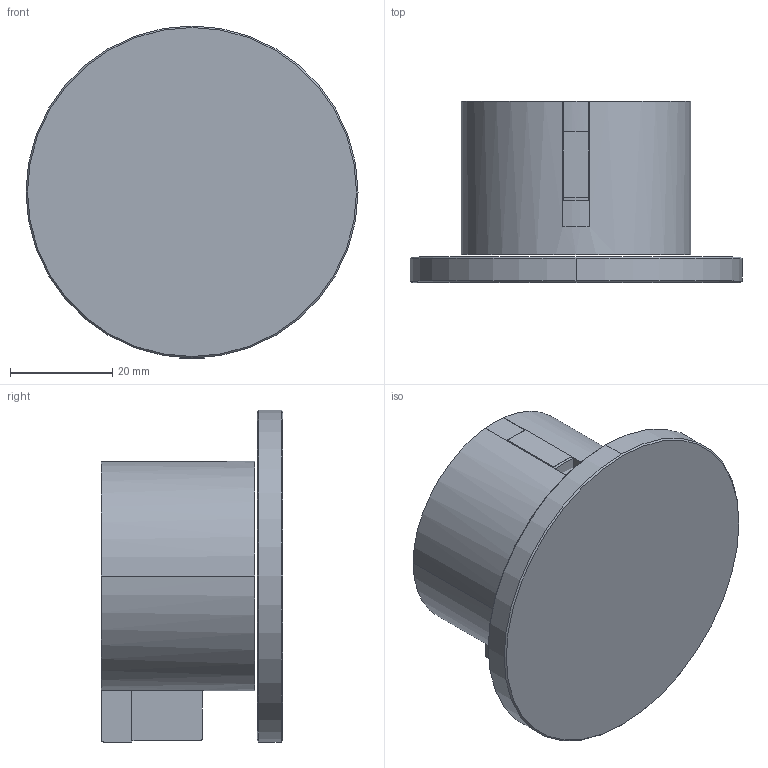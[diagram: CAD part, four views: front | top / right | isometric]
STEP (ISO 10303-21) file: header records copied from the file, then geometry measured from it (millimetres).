
FILE_DESCRIPTION((''),'2;1');
FILE_NAME('0241006B_ASM','2019-02-12T',('filar'),(''),'CREO PARAMETRIC BY PTC INC, 2014440','CREO PARAMETRIC BY PTC INC, 2014440','');
FILE_SCHEMA(('CONFIG_CONTROL_DESIGN'));
Length unit declared in the file: millimetre
Products named in the file (5): P024067; P024064; P024065; P024011; 0241006B_ASM
Assembly tree (4 placements, depth 2):
  0241006B_ASM
    P024067
    P024064
    P024065
    P024011
Bounding box: 65 x 35.5 x 65 mm (x, y, z)
Volume: 69515.9 mm3; surface area: 18911.7 mm2
Topology: 4 solids, 7 shells, 56 faces, 140 edges, 101 vertices
Faces by surface type: plane 34, cylinder 16, cone 6
Entity records: 1856 total; most frequent: DIRECTION 336, CARTESIAN_POINT 332, ORIENTED_EDGE 250, EDGE_CURVE 130, AXIS2_PLACEMENT_3D 123, VECTOR 90, LINE 90, VERTEX_POINT 85
